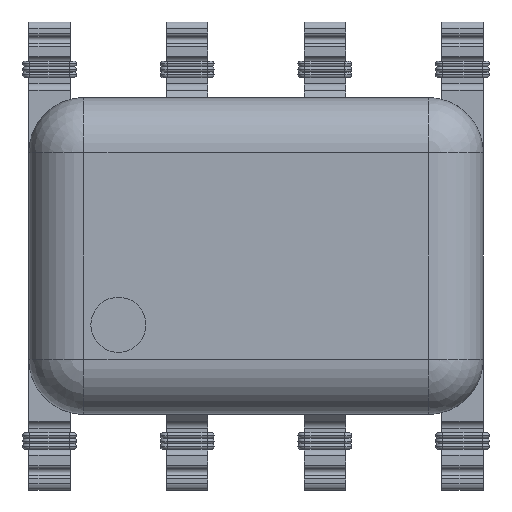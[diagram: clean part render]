
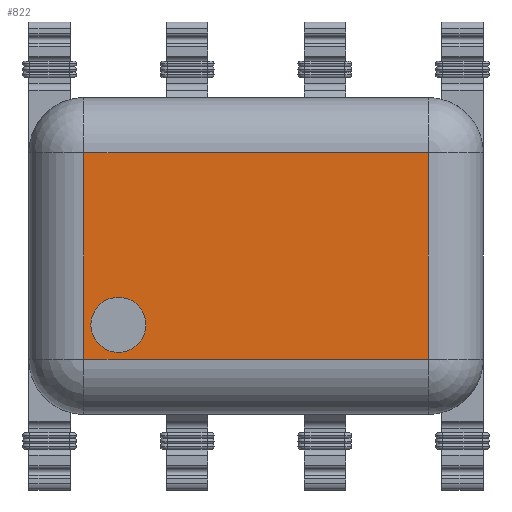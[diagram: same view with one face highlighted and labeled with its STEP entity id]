
A CAD part, front view. The second image highlights one B-rep face of the part: STEP entity #822.
In plain terms, the highlighted planar face has unit normal (0, -1, 0).
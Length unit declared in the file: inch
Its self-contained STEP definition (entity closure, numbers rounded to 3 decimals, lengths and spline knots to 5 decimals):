
#98 = CARTESIAN_POINT ( 'NONE',  ( -0.165, 0., 0.075 ) ) ;
#106 = CARTESIAN_POINT ( 'NONE',  ( 0.125, 0., 0.075 ) ) ;
#151 = DIRECTION ( 'NONE',  ( -1., 0., 0. ) ) ;
#175 = VECTOR ( 'NONE', #701, 39.37008 ) ;
#319 = EDGE_CURVE ( 'NONE', #1314, #344, #6202, .T. ) ;
#344 = VERTEX_POINT ( 'NONE', #106 ) ;
#426 = AXIS2_PLACEMENT_3D ( 'NONE', #7536, #3589, #8178 ) ;
#701 = DIRECTION ( 'NONE',  ( 0., 0., -1. ) ) ;
#822 = ADVANCED_FACE ( 'NONE', ( #4400, #6867 ), #1702, .T. ) ;
#1314 = VERTEX_POINT ( 'NONE', #2110 ) ;
#1329 = DIRECTION ( 'NONE',  ( 0., -1., 0. ) ) ;
#1331 = EDGE_LOOP ( 'NONE', ( #7756, #2663 ) ) ;
#1345 = AXIS2_PLACEMENT_3D ( 'NONE', #4747, #7396, #3293 ) ;
#1702 = PLANE ( 'NONE',  #5823 ) ;
#1989 = CARTESIAN_POINT ( 'NONE',  ( 0.165, 0., -0.075 ) ) ;
#2030 = CARTESIAN_POINT ( 'NONE',  ( 0.165, 0., -0.115 ) ) ;
#2090 = VERTEX_POINT ( 'NONE', #5836 ) ;
#2095 = CARTESIAN_POINT ( 'NONE',  ( 0.125, 0., 0.115 ) ) ;
#2110 = CARTESIAN_POINT ( 'NONE',  ( 0.125, 0., -0.075 ) ) ;
#2222 = DIRECTION ( 'NONE',  ( 0., 0., 1. ) ) ;
#2298 = LINE ( 'NONE', #98, #5797 ) ;
#2307 = ORIENTED_EDGE ( 'NONE', *, *, #6140, .T. ) ;
#2405 = DIRECTION ( 'NONE',  ( 0., 0., -1. ) ) ;
#2663 = ORIENTED_EDGE ( 'NONE', *, *, #6348, .F. ) ;
#2753 = EDGE_CURVE ( 'NONE', #8156, #2090, #2780, .T. ) ;
#2780 = LINE ( 'NONE', #5370, #175 ) ;
#3293 = DIRECTION ( 'NONE',  ( 0., 0., -1. ) ) ;
#3530 = EDGE_LOOP ( 'NONE', ( #4449, #2307, #8098, #7500 ) ) ;
#3589 = DIRECTION ( 'NONE',  ( 0., -1., 0. ) ) ;
#4086 = LINE ( 'NONE', #1989, #6407 ) ;
#4400 = FACE_BOUND ( 'NONE', #1331, .T. ) ;
#4449 = ORIENTED_EDGE ( 'NONE', *, *, #2753, .T. ) ;
#4747 = CARTESIAN_POINT ( 'NONE',  ( -0.1, 0., -0.05 ) ) ;
#4987 = VECTOR ( 'NONE', #2222, 39.37008 ) ;
#5205 = CARTESIAN_POINT ( 'NONE',  ( -0.1, 0., -0.03 ) ) ;
#5355 = EDGE_CURVE ( 'NONE', #344, #8156, #2298, .T. ) ;
#5370 = CARTESIAN_POINT ( 'NONE',  ( -0.125, 0., -0.115 ) ) ;
#5755 = EDGE_CURVE ( 'NONE', #6038, #7252, #8381, .T. ) ;
#5797 = VECTOR ( 'NONE', #151, 39.37008 ) ;
#5823 = AXIS2_PLACEMENT_3D ( 'NONE', #2030, #1329, #2405 ) ;
#5836 = CARTESIAN_POINT ( 'NONE',  ( -0.125, 0., -0.075 ) ) ;
#6038 = VERTEX_POINT ( 'NONE', #7831 ) ;
#6140 = EDGE_CURVE ( 'NONE', #2090, #1314, #4086, .T. ) ;
#6202 = LINE ( 'NONE', #2095, #4987 ) ;
#6305 = CARTESIAN_POINT ( 'NONE',  ( -0.125, 0., 0.075 ) ) ;
#6348 = EDGE_CURVE ( 'NONE', #7252, #6038, #7256, .T. ) ;
#6407 = VECTOR ( 'NONE', #7950, 39.37008 ) ;
#6867 = FACE_OUTER_BOUND ( 'NONE', #3530, .T. ) ;
#7252 = VERTEX_POINT ( 'NONE', #5205 ) ;
#7256 = CIRCLE ( 'NONE', #426, 0.02 ) ;
#7396 = DIRECTION ( 'NONE',  ( 0., -1., 0. ) ) ;
#7500 = ORIENTED_EDGE ( 'NONE', *, *, #5355, .T. ) ;
#7536 = CARTESIAN_POINT ( 'NONE',  ( -0.1, 0., -0.05 ) ) ;
#7756 = ORIENTED_EDGE ( 'NONE', *, *, #5755, .F. ) ;
#7831 = CARTESIAN_POINT ( 'NONE',  ( -0.1, 0., -0.07 ) ) ;
#7950 = DIRECTION ( 'NONE',  ( 1., 0., 0. ) ) ;
#8098 = ORIENTED_EDGE ( 'NONE', *, *, #319, .T. ) ;
#8156 = VERTEX_POINT ( 'NONE', #6305 ) ;
#8178 = DIRECTION ( 'NONE',  ( 0., 0., -1. ) ) ;
#8381 = CIRCLE ( 'NONE', #1345, 0.02 ) ;
